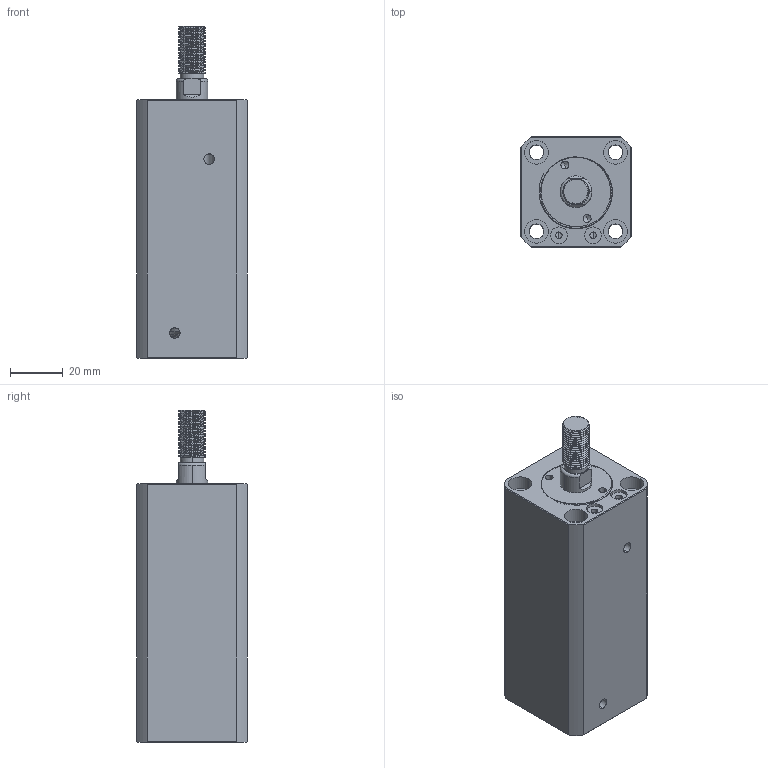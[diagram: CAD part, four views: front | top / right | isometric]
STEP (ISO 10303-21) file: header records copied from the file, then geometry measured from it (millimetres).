
FILE_DESCRIPTION (( 'STEP AP214' ), '1' );
FILE_NAME ('chtb-sdma20x55w_asm.STEP', '2018-05-18T04:27:29', ( 'Windows' ), ( 'Microsoft' ), 'SwSTEP 2.0', 'SolidWorks 2015', '' );
FILE_SCHEMA (( 'AUTOMOTIVE_DESIGN' ));
Length unit declared in the file: millimetre
Products named in the file (4): CHTB-SDMA20X55NBT; chtb-sdma20x55w_asm; QG_3; CHTB-SDMA20X55WHSG
Assembly tree (3 placements, depth 2):
  chtb-sdma20x55w_asm
    CHTB-SDMA20X55NBT
    CHTB-SDMA20X55WHSG
    QG_3
Bounding box: 42 x 42 x 126 mm (x, y, z)
Volume: 147598.4 mm3; surface area: 43720.2 mm2
Topology: 3 solids, 3 shells, 247 faces, 671 edges, 446 vertices
Faces by surface type: cylinder 144, plane 48, torus 25, bspline 23, cone 7
Entity records: 14895 total; most frequent: CARTESIAN_POINT 9018, ORIENTED_EDGE 1334, DIRECTION 1075, EDGE_CURVE 667, VERTEX_POINT 446, AXIS2_PLACEMENT_3D 441, EDGE_LOOP 285, ADVANCED_FACE 247
